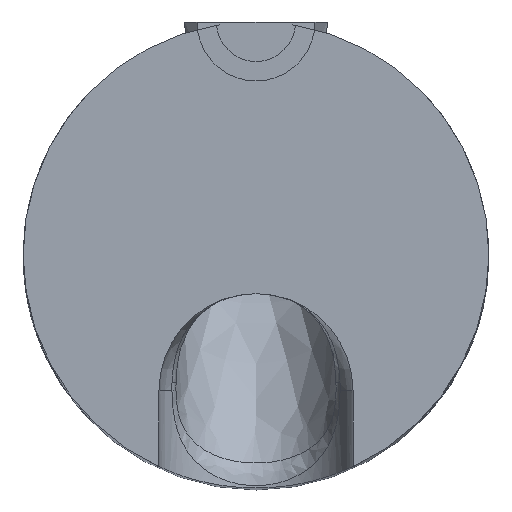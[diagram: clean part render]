
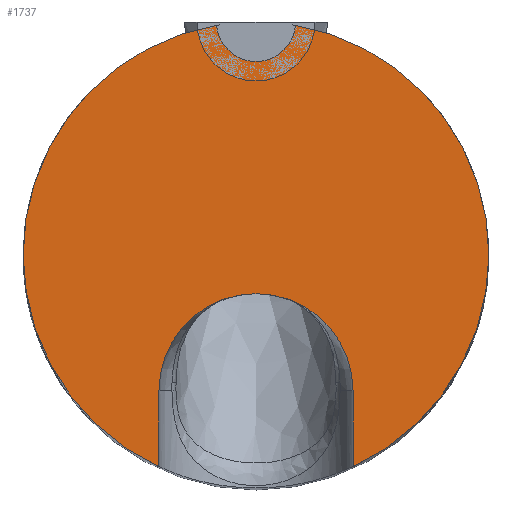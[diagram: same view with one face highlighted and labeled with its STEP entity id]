
A CAD part, top view. The second image highlights one B-rep face of the part: STEP entity #1737.
In plain terms, the highlighted planar face has unit normal (0, 0, 1).
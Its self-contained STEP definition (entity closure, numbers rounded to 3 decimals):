
#1=DIRECTION('',(0.,-1.,0.));
#2=VECTOR('',#1,0.977);
#3=CARTESIAN_POINT('',(1.25,-4.75,0.6));
#4=LINE('',#3,#2);
#9=CARTESIAN_POINT('',(0.,-4.75,0.6));
#10=DIRECTION('',(0.,0.,1.));
#11=DIRECTION('',(1.,0.,0.));
#12=AXIS2_PLACEMENT_3D('',#9,#10,#11);
#14=CARTESIAN_POINT('',(0.,-3.,0.6));
#15=DIRECTION('',(0.,0.,1.));
#16=DIRECTION('',(-1.,0.,0.));
#17=AXIS2_PLACEMENT_3D('',#14,#15,#16);
#19=CARTESIAN_POINT('',(0.,-3.,0.6));
#20=DIRECTION('',(0.,0.,1.));
#21=DIRECTION('',(-0.169,0.986,0.));
#22=AXIS2_PLACEMENT_3D('',#19,#20,#21);
#24=CARTESIAN_POINT('',(0.,0.,0.6));
#25=DIRECTION('',(0.,0.,-1.));
#26=DIRECTION('',(0.996,-0.085,0.));
#27=AXIS2_PLACEMENT_3D('',#24,#25,#26);
#29=CARTESIAN_POINT('',(0.,-3.,0.6));
#30=DIRECTION('',(0.,0.,1.));
#31=DIRECTION('',(1.,0.,0.));
#32=AXIS2_PLACEMENT_3D('',#29,#30,#31);
#34=CARTESIAN_POINT('',(0.,-3.,0.6));
#35=DIRECTION('',(0.,0.,1.));
#36=DIRECTION('',(0.417,-0.909,0.));
#37=AXIS2_PLACEMENT_3D('',#34,#35,#36);
#1529=DIRECTION('',(0.,-1.,0.));
#1530=VECTOR('',#1529,0.977);
#1531=CARTESIAN_POINT('',(-1.25,-4.75,0.6));
#1532=LINE('',#1531,#1530);
#1589=CARTESIAN_POINT('',(1.25,-4.75,0.6));
#1590=CARTESIAN_POINT('',(1.25,-5.727,0.6));
#1591=VERTEX_POINT('',#1589);
#1592=VERTEX_POINT('',#1590);
#1593=CARTESIAN_POINT('',(-1.25,-4.75,0.6));
#1594=VERTEX_POINT('',#1593);
#1595=CARTESIAN_POINT('',(-1.25,-5.727,0.6));
#1596=VERTEX_POINT('',#1595);
#1597=CARTESIAN_POINT('',(-3.,-3.,0.6));
#1598=VERTEX_POINT('',#1597);
#1599=CARTESIAN_POINT('',(3.,-3.,0.6));
#1600=VERTEX_POINT('',#1599);
#1601=CARTESIAN_POINT('',(0.508,-0.043,0.6));
#1602=VERTEX_POINT('',#1601);
#1603=CARTESIAN_POINT('',(-0.508,-0.043,0.6));
#1604=VERTEX_POINT('',#1603);
#1715=CARTESIAN_POINT('',(-3.25,-3.,0.6));
#1716=DIRECTION('',(0.,0.,1.));
#1717=DIRECTION('',(-1.,0.,0.));
#1718=AXIS2_PLACEMENT_3D('',#1715,#1716,#1717);
#1719=PLANE('',#1718);
#1720=ORIENTED_EDGE('',*,*,#1704,.F.);
#1722=ORIENTED_EDGE('',*,*,#1721,.T.);
#1724=ORIENTED_EDGE('',*,*,#1723,.T.);
#1726=ORIENTED_EDGE('',*,*,#1725,.F.);
#1728=ORIENTED_EDGE('',*,*,#1727,.F.);
#1730=ORIENTED_EDGE('',*,*,#1729,.F.);
#1732=ORIENTED_EDGE('',*,*,#1731,.F.);
#1734=ORIENTED_EDGE('',*,*,#1733,.F.);
#1735=EDGE_LOOP('',(#1720,#1722,#1724,#1726,#1728,#1730,#1732,#1734));
#1736=FACE_OUTER_BOUND('',#1735,.F.);
#1737=ADVANCED_FACE('',(#1736),#1719,.T.);
#13=CIRCLE('',#12,1.25);
#18=CIRCLE('',#17,3.);
#23=CIRCLE('',#22,3.);
#28=CIRCLE('',#27,0.51);
#33=CIRCLE('',#32,3.);
#38=CIRCLE('',#37,3.);
#1704=EDGE_CURVE('',#1591,#1592,#4,.T.);
#1721=EDGE_CURVE('',#1591,#1594,#13,.T.);
#1723=EDGE_CURVE('',#1594,#1596,#1532,.T.);
#1725=EDGE_CURVE('',#1598,#1596,#18,.T.);
#1727=EDGE_CURVE('',#1604,#1598,#23,.T.);
#1729=EDGE_CURVE('',#1602,#1604,#28,.T.);
#1731=EDGE_CURVE('',#1600,#1602,#33,.T.);
#1733=EDGE_CURVE('',#1592,#1600,#38,.T.);
